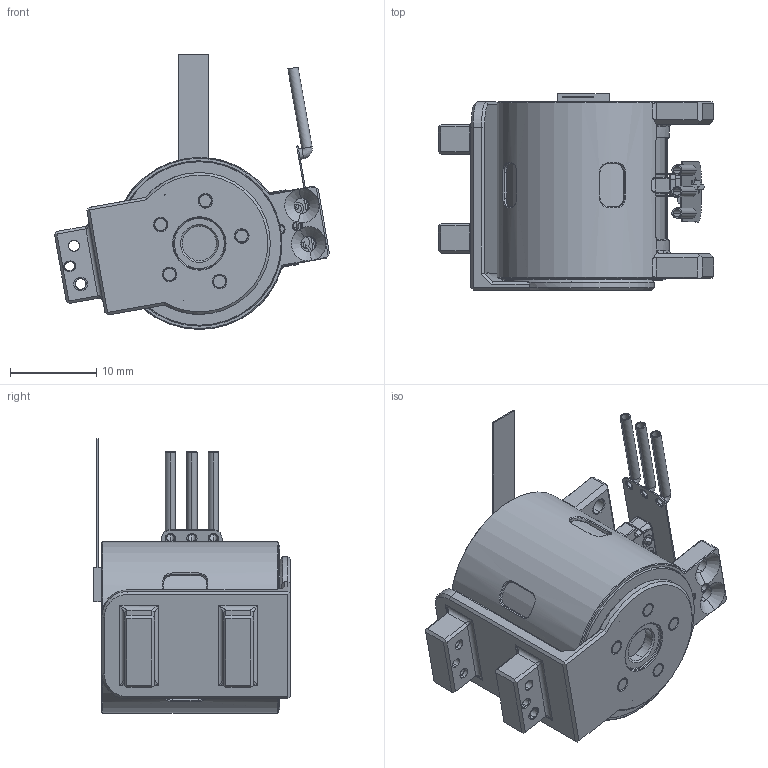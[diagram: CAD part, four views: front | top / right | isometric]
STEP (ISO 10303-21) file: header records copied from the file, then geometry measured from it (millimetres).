
FILE_DESCRIPTION((''),'2;1');
FILE_NAME('020200000001_ASM','2025-10-09T',('24143'),(''),'CREO PARAMETRIC BY PTC INC, 2018360','CREO PARAMETRIC BY PTC INC, 2018360','');
FILE_SCHEMA(('CONFIG_CONTROL_DESIGN'));
Length unit declared in the file: millimetre
Products named in the file (37): 022700000001_7_1_1_1_1_1_1_1_1; CU_1_1_1_2_1_1_1_1_1_1_1; CU_2_1_1_2_1_1_1_1_1_1_1; 022600000001_ASM_19_1_ASM_1_A_1_ASM; 022700000001-ZK_5_1_1_1_1_1_1_2; CU_1_1_1_1_1_1_1_2_1_1; 022700000001_ASM_7_1_ASM_1_AS_1_ASM; 021400000001_ASM_31_1_ASM_1_A_1_ASM; 022700000001_7_1_1_1_1_2_1_1__1; CU_1_1_1_1_1_1_1_1; CU_2_1_1_1_1_1_1_1_1; 220000000003_ASM_9_1_ASM_1_AS_1_ASM; 021400000002_ASM_19_1_ASM_1_A_1_ASM; 021100000001_ASM_18_1_ASM_1_A_1_ASM; 023500000004_3_1_2_1_1_1_1_1__1; 024300000001_8_1_2_1_1_1_1_1__1; 020600000001_ASM_7_1_2_ASM_1__1_ASM; 025000000002_AF0_1_1_1_1_2_1__2; 025300000001_1_1_1_1_2_1_1_1__2; 025000000001_ASM_1_1_ASM_1_1__1_ASM; ASM0003_ASM_1_1_2_ASM_1_ASM_1_2_ASM; 062700000002_3_1_1_1_1_1_1_1_1; 200000000003_3_1_1_1_1_1_1_1__1; 000200000001_ASM_103_1_ASM_1__1_ASM; 024800000001_1_1_1_1_1_1_1_1; 1111_1_1_1_1_1_1_1_1; 020200000001_ASM_26_ASM_1_ASM_2_ASM; 020200000001_ASM_ASM_1_ASM_1__2_ASM; ASM0002_ASM_1_ASM_1_ASM_1_1_A_1_ASM; ASM0002_ASM_1_1_ASM_1_1_ASM_1_1_ASM; PRT0008_1_1_1_1; ASM0006_ASM_1_1_ASM_1_ASM_1_ASM; ASM0007_ASM_1_ASM_1_ASM; 024200000001_54; 023000000001_52; 20MM-L-MOTOR_ASM_1_ASM; 020200000001_ASM
Assembly tree (54 placements, depth 13):
  020200000001_ASM
    20MM-L-MOTOR_ASM_1_ASM
      ASM0007_ASM_1_ASM_1_ASM
        ASM0006_ASM_1_1_ASM_1_ASM_1_ASM
          ASM0002_ASM_1_1_ASM_1_1_ASM_1_1_ASM
            ASM0002_ASM_1_ASM_1_ASM_1_1_A_1_ASM
              020200000001_ASM_ASM_1_ASM_1__2_ASM
                020200000001_ASM_26_ASM_1_ASM_2_ASM
                  000200000001_ASM_103_1_ASM_1__1_ASM
                    200000000003_3_1_1_1_1_1_1_1__1  x3
                  024800000001_1_1_1_1_1_1_1_1
                  1111_1_1_1_1_1_1_1_1
          PRT0008_1_1_1_1
      024200000001_54
      023000000001_52
Bounding box: 31.97 x 22.85 x 31.96 mm (x, y, z)
Volume: 6883.6 mm3; surface area: 7771.9 mm2
Topology: 37 solids, 40 shells, 923 faces, 2446 edges, 1598 vertices
Faces by surface type: plane 344, cylinder 321, torus 100, cone 96, bspline 54, extrusion 8
Entity records: 29334 total; most frequent: CARTESIAN_POINT 8258, DIRECTION 4536, ORIENTED_EDGE 4200, EDGE_CURVE 2106, AXIS2_PLACEMENT_3D 1787, VERTEX_POINT 1384, VECTOR 962, LINE 954
